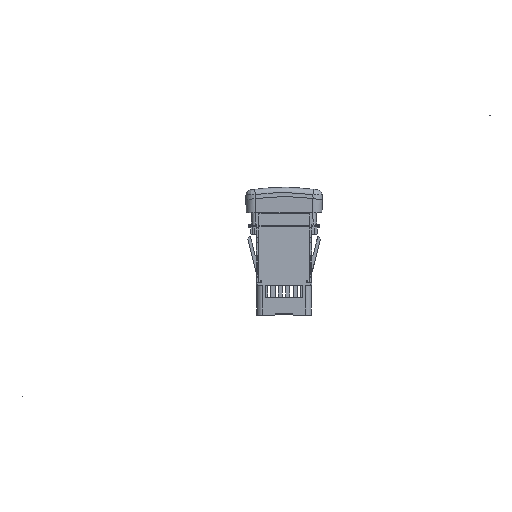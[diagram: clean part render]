
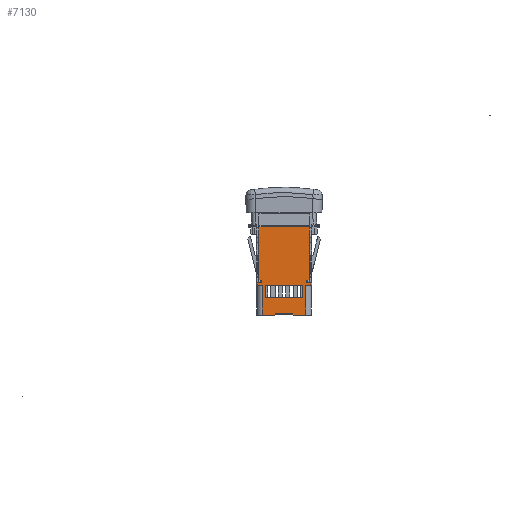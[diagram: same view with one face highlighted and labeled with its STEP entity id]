
A CAD part, front view. The second image highlights one B-rep face of the part: STEP entity #7130.
In plain terms, the highlighted planar face has unit normal (0, -1, 0) as drawn and (1, 0, 0) by its records, which use the part's own axes.
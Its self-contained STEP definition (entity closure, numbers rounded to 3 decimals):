
#7130=ADVANCED_FACE('\X2\FF8AFF9FFF70FF82\X0\ \X2\FF8EFF9EFF83FF9EFF68FF70\X0\4',(#9423,#7629),#60032,.T.);
#7629=FACE_BOUND('',#46484,.T.);
#9423=FACE_OUTER_BOUND('',#46483,.T.);
#10323=CIRCLE('',#82138,0.1);
#10326=CIRCLE('',#82143,0.9);
#10329=CIRCLE('',#82148,0.9);
#10332=CIRCLE('',#82153,0.1);
#20567=ORIENTED_EDGE('',*,*,#28082,.T.);
#20568=ORIENTED_EDGE('',*,*,#28083,.T.);
#20569=ORIENTED_EDGE('',*,*,#28059,.T.);
#20570=ORIENTED_EDGE('',*,*,#28018,.F.);
#20571=ORIENTED_EDGE('',*,*,#28014,.T.);
#20572=ORIENTED_EDGE('',*,*,#28013,.F.);
#20573=ORIENTED_EDGE('',*,*,#28012,.T.);
#20574=ORIENTED_EDGE('',*,*,#28010,.T.);
#20575=ORIENTED_EDGE('',*,*,#28008,.F.);
#20576=ORIENTED_EDGE('',*,*,#28006,.F.);
#20577=ORIENTED_EDGE('',*,*,#28004,.F.);
#20578=ORIENTED_EDGE('',*,*,#28002,.F.);
#20579=ORIENTED_EDGE('',*,*,#28000,.T.);
#20580=ORIENTED_EDGE('',*,*,#27998,.F.);
#20581=ORIENTED_EDGE('',*,*,#27996,.F.);
#20582=ORIENTED_EDGE('',*,*,#27991,.F.);
#20583=ORIENTED_EDGE('',*,*,#28081,.F.);
#20584=ORIENTED_EDGE('',*,*,#28084,.T.);
#20585=ORIENTED_EDGE('',*,*,#28085,.F.);
#20586=ORIENTED_EDGE('',*,*,#28023,.F.);
#20587=ORIENTED_EDGE('',*,*,#28026,.F.);
#20588=ORIENTED_EDGE('',*,*,#27986,.T.);
#20589=ORIENTED_EDGE('',*,*,#28054,.T.);
#20590=ORIENTED_EDGE('',*,*,#28057,.F.);
#20591=ORIENTED_EDGE('',*,*,#27985,.T.);
#20592=ORIENTED_EDGE('',*,*,#27983,.F.);
#20593=ORIENTED_EDGE('',*,*,#27982,.F.);
#20594=ORIENTED_EDGE('',*,*,#27979,.T.);
#27979=EDGE_CURVE('1577',#43808,#43807,#38937,.T.);
#27982=EDGE_CURVE('1580',#43808,#43809,#38940,.T.);
#27983=EDGE_CURVE('1581',#43809,#43810,#38941,.T.);
#27985=EDGE_CURVE('1583',#43807,#43810,#38943,.T.);
#27986=EDGE_CURVE('1584',#43811,#43812,#38944,.T.);
#27991=EDGE_CURVE('1589',#43815,#43816,#38948,.T.);
#27996=EDGE_CURVE('1594',#43816,#43727,#38951,.T.);
#27998=EDGE_CURVE('1596',#43727,#43819,#38952,.T.);
#28000=EDGE_CURVE('1598',#43820,#43819,#10323,.T.);
#28002=EDGE_CURVE('1600',#43820,#43821,#38953,.T.);
#28004=EDGE_CURVE('1602',#43821,#43822,#10326,.T.);
#28006=EDGE_CURVE('1604',#43822,#43823,#38954,.T.);
#28008=EDGE_CURVE('1606',#43823,#43824,#10329,.T.);
#28010=EDGE_CURVE('1608',#43825,#43824,#38955,.T.);
#28012=EDGE_CURVE('1610',#43826,#43825,#10332,.T.);
#28013=EDGE_CURVE('1611',#43826,#43737,#38956,.T.);
#28014=EDGE_CURVE('1612',#43827,#43737,#38957,.T.);
#28018=EDGE_CURVE('1616',#43827,#43830,#38960,.T.);
#28023=EDGE_CURVE('1621',#43833,#43835,#38963,.T.);
#28026=EDGE_CURVE('1624',#43811,#43833,#38966,.T.);
#28054=EDGE_CURVE('1652',#43812,#43853,#38994,.T.);
#28057=EDGE_CURVE('1655',#43855,#43853,#38997,.T.);
#28059=EDGE_CURVE('1657',#43857,#43830,#38999,.T.);
#28081=EDGE_CURVE('1679',#43868,#43815,#39017,.T.);
#28082=EDGE_CURVE('1680',#43855,#43869,#39018,.T.);
#28083=EDGE_CURVE('1681',#43869,#43857,#39019,.T.);
#28084=EDGE_CURVE('1682',#43868,#43870,#39020,.T.);
#28085=EDGE_CURVE('1683',#43835,#43870,#39021,.T.);
#33289=VECTOR('',#82996,20.);
#33292=VECTOR('',#82994,6.5);
#33293=VECTOR('',#82996,20.);
#33295=VECTOR('',#82994,6.5);
#33296=VECTOR('',#82996,26.8);
#33300=VECTOR('',#82996,2.7);
#33303=VECTOR('',#83000,15.85);
#33304=VECTOR('',#82996,6.093);
#33305=VECTOR('',#83150,1.);
#33306=VECTOR('',#82996,8.086);
#33307=VECTOR('',#83040,1.);
#33308=VECTOR('',#82996,6.093);
#33309=VECTOR('',#83000,15.85);
#33312=VECTOR('',#82996,2.7);
#33315=VECTOR('',#82996,1.4);
#33318=VECTOR('',#83000,28.5);
#33346=VECTOR('',#83000,28.5);
#33349=VECTOR('',#82996,1.4);
#33351=VECTOR('',#83000,1.5);
#33369=VECTOR('',#83000,1.5);
#33370=VECTOR('',#83000,1.25);
#33371=VECTOR('',#82996,2.25);
#33372=VECTOR('',#82996,2.25);
#33373=VECTOR('',#83000,1.25);
#38937=LINE('',#70330,#33289);
#38940=LINE('',#70330,#33292);
#38941=LINE('',#70331,#33293);
#38943=LINE('',#70329,#33295);
#38944=LINE('',#70333,#33296);
#38948=LINE('',#70338,#33300);
#38951=LINE('',#70340,#33303);
#38952=LINE('',#70222,#33304);
#38953=LINE('',#70347,#33305);
#38954=LINE('',#70352,#33306);
#38955=LINE('',#70361,#33307);
#38956=LINE('',#70362,#33308);
#38957=LINE('',#70366,#33309);
#38960=LINE('',#70366,#33312);
#38963=LINE('',#70376,#33315);
#38966=LINE('',#70333,#33318);
#38994=LINE('',#70334,#33346);
#38997=LINE('',#70399,#33349);
#38999=LINE('',#70402,#33351);
#39017=LINE('',#70418,#33369);
#39018=LINE('',#70399,#33370);
#39019=LINE('',#70420,#33371);
#39020=LINE('',#70418,#33372);
#39021=LINE('',#70375,#33373);
#43727=VERTEX_POINT('941',#70222);
#43737=VERTEX_POINT('951',#70242);
#43807=VERTEX_POINT('1021',#70329);
#43808=VERTEX_POINT('1022',#70330);
#43809=VERTEX_POINT('1023',#70331);
#43810=VERTEX_POINT('1024',#70332);
#43811=VERTEX_POINT('1025',#70333);
#43812=VERTEX_POINT('1026',#70334);
#43815=VERTEX_POINT('1029',#70338);
#43816=VERTEX_POINT('1030',#70340);
#43819=VERTEX_POINT('1033',#70345);
#43820=VERTEX_POINT('1034',#70347);
#43821=VERTEX_POINT('1035',#70350);
#43822=VERTEX_POINT('1036',#70352);
#43823=VERTEX_POINT('1037',#70355);
#43824=VERTEX_POINT('1038',#70357);
#43825=VERTEX_POINT('1039',#70361);
#43826=VERTEX_POINT('1040',#70362);
#43827=VERTEX_POINT('1041',#70366);
#43830=VERTEX_POINT('1044',#70370);
#43833=VERTEX_POINT('1047',#70376);
#43835=VERTEX_POINT('1049',#70375);
#43853=VERTEX_POINT('1067',#70397);
#43855=VERTEX_POINT('1069',#70399);
#43857=VERTEX_POINT('1071',#70402);
#43868=VERTEX_POINT('1082',#70418);
#43869=VERTEX_POINT('1083',#70420);
#43870=VERTEX_POINT('1084',#70421);
#46483=EDGE_LOOP('',(#20567,#20568,#20569,#20570,#20571,#20572,#20573,#20574,#20575,#20576,#20577,#20578,#20579,#20580,#20581,#20582,#20583,#20584,#20585,#20586,#20587,#20588,#20589,#20590));
#46484=EDGE_LOOP('',(#20591,#20592,#20593,#20594));
#60032=PLANE('',#82188);
#70222=CARTESIAN_POINT('',(10.,11.55,-46.6));
#70242=CARTESIAN_POINT('',(10.,-11.55,-46.6));
#70329=CARTESIAN_POINT('',(10.,-10.,-37.));
#70330=CARTESIAN_POINT('',(10.,10.,-37.));
#70331=CARTESIAN_POINT('',(10.,10.,-30.5));
#70332=CARTESIAN_POINT('',(10.,-10.,-30.5));
#70333=CARTESIAN_POINT('',(10.,13.4,0.5));
#70334=CARTESIAN_POINT('',(10.,-13.4,0.5));
#70338=CARTESIAN_POINT('',(10.,14.25,-30.75));
#70340=CARTESIAN_POINT('',(10.,11.55,-30.75));
#70345=CARTESIAN_POINT('',(10.,5.457,-46.6));
#70347=CARTESIAN_POINT('',(10.,5.386,-46.571));
#70349=CARTESIAN_POINT('',(10.,5.457,-46.5));
#70350=CARTESIAN_POINT('',(10.,4.679,-45.864));
#70352=CARTESIAN_POINT('',(10.,4.043,-45.6));
#70354=CARTESIAN_POINT('',(10.,4.043,-46.5));
#70355=CARTESIAN_POINT('',(10.,-4.043,-45.6));
#70357=CARTESIAN_POINT('',(10.,-4.679,-45.864));
#70359=CARTESIAN_POINT('',(10.,-4.043,-46.5));
#70361=CARTESIAN_POINT('',(10.,-5.386,-46.571));
#70362=CARTESIAN_POINT('',(10.,-5.457,-46.6));
#70364=CARTESIAN_POINT('',(10.,-5.457,-46.5));
#70366=CARTESIAN_POINT('',(10.,-11.55,-30.75));
#70370=CARTESIAN_POINT('',(10.,-14.25,-30.75));
#70375=CARTESIAN_POINT('',(10.,12.,-28.));
#70376=CARTESIAN_POINT('',(10.,13.4,-28.));
#70397=CARTESIAN_POINT('',(10.,-13.4,-28.));
#70399=CARTESIAN_POINT('',(10.,-12.,-28.));
#70402=CARTESIAN_POINT('',(10.,-14.25,-29.25));
#70418=CARTESIAN_POINT('',(10.,14.25,-29.25));
#70419=CARTESIAN_POINT('',(10.,14.25,0.5));
#70420=CARTESIAN_POINT('',(10.,-12.,-29.25));
#70421=CARTESIAN_POINT('',(10.,12.,-29.25));
#82138=AXIS2_PLACEMENT_3D('',#70349,#82995,#83047);
#82143=AXIS2_PLACEMENT_3D('',#70354,#82995,#83040);
#82148=AXIS2_PLACEMENT_3D('',#70359,#82995,#82994);
#82153=AXIS2_PLACEMENT_3D('',#70364,#82995,#83000);
#82188=AXIS2_PLACEMENT_3D('',#70419,#82995,#82996);
#82994=DIRECTION('',(0.,0.,1.));
#82995=DIRECTION('',(1.,0.,0.));
#82996=DIRECTION('',(0.,-1.,0.));
#83000=DIRECTION('',(0.,0.,-1.));
#83040=DIRECTION('',(0.,0.707,0.707));
#83047=DIRECTION('',(0.,-0.707,-0.707));
#83150=DIRECTION('',(0.,-0.707,0.707));
